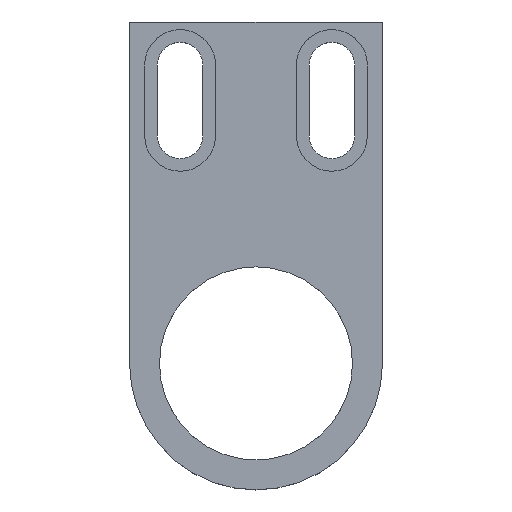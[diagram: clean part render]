
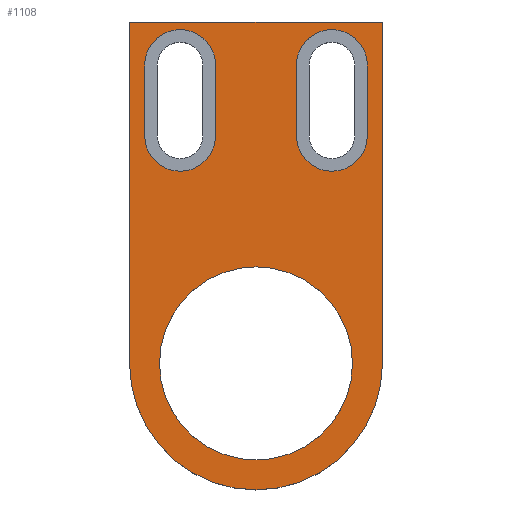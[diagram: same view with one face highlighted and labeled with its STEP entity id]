
A CAD part, top view. The second image highlights one B-rep face of the part: STEP entity #1108.
In plain terms, the highlighted planar face has unit normal (0, 0, 1).
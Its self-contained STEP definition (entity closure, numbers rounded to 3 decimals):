
#24 = EDGE_LOOP ( 'NONE', ( #25, #32 ) ) ;
#25 = ORIENTED_EDGE ( 'NONE', *, *, #59, .F. ) ;
#27 = EDGE_CURVE ( 'NONE', #30, #29, #258, .T. ) ;
#28 = EDGE_CURVE ( 'NONE', #29, #1113, #249, .T. ) ;
#29 = VERTEX_POINT ( 'NONE', #267 ) ;
#30 = VERTEX_POINT ( 'NONE', #250 ) ;
#31 = ORIENTED_EDGE ( 'NONE', *, *, #27, .F. ) ;
#32 = ORIENTED_EDGE ( 'NONE', *, *, #37, .F. ) ;
#33 = ORIENTED_EDGE ( 'NONE', *, *, #36, .F. ) ;
#34 = ORIENTED_EDGE ( 'NONE', *, *, #1070, .T. ) ;
#35 = EDGE_LOOP ( 'NONE', ( #34, #39, #43, #38 ) ) ;
#36 = EDGE_CURVE ( 'NONE', #1110, #30, #246, .T. ) ;
#37 = EDGE_CURVE ( 'NONE', #56, #58, #298, .T. ) ;
#38 = ORIENTED_EDGE ( 'NONE', *, *, #1114, .T. ) ;
#39 = ORIENTED_EDGE ( 'NONE', *, *, #1061, .T. ) ;
#43 = ORIENTED_EDGE ( 'NONE', *, *, #1055, .T. ) ;
#56 = VERTEX_POINT ( 'NONE', #322 ) ;
#58 = VERTEX_POINT ( 'NONE', #321 ) ;
#59 = EDGE_CURVE ( 'NONE', #58, #56, #326, .T. ) ;
#244 = DIRECTION ( 'NONE',  ( 0., -1., 0. ) ) ;
#245 = CARTESIAN_POINT ( 'NONE',  ( -22., 59., 6. ) ) ;
#246 = LINE ( 'NONE', #245, #301 ) ;
#248 = VECTOR ( 'NONE', #256, 1000. ) ;
#249 = LINE ( 'NONE', #254, #248 ) ;
#250 = CARTESIAN_POINT ( 'NONE',  ( -22., 45., 6. ) ) ;
#251 = DIRECTION ( 'NONE',  ( 1., 0., 0. ) ) ;
#252 = DIRECTION ( 'NONE',  ( 0., 0., 1. ) ) ;
#253 = CARTESIAN_POINT ( 'NONE',  ( -15., 45., 6. ) ) ;
#254 = CARTESIAN_POINT ( 'NONE',  ( -8., 59., 6. ) ) ;
#255 = CARTESIAN_POINT ( 'NONE',  ( 0., 0., 6. ) ) ;
#256 = DIRECTION ( 'NONE',  ( 0., 1., 0. ) ) ;
#258 = CIRCLE ( 'NONE', #263, 7. ) ;
#263 = AXIS2_PLACEMENT_3D ( 'NONE', #253, #252, #251 ) ;
#267 = CARTESIAN_POINT ( 'NONE',  ( -8., 45., 6. ) ) ;
#295 = DIRECTION ( 'NONE',  ( 1., 0., 0. ) ) ;
#296 = DIRECTION ( 'NONE',  ( 0., 0., 1. ) ) ;
#297 = AXIS2_PLACEMENT_3D ( 'NONE', #255, #296, #295 ) ;
#298 = CIRCLE ( 'NONE', #297, 19.079 ) ;
#301 = VECTOR ( 'NONE', #244, 1000. ) ;
#314 = DIRECTION ( 'NONE',  ( 1., 0., 0. ) ) ;
#315 = DIRECTION ( 'NONE',  ( 0., 0., 1. ) ) ;
#316 = CARTESIAN_POINT ( 'NONE',  ( 0., 0., 6. ) ) ;
#321 = CARTESIAN_POINT ( 'NONE',  ( -19.079, 0., 6. ) ) ;
#322 = CARTESIAN_POINT ( 'NONE',  ( 19.079, 0., 6. ) ) ;
#323 = AXIS2_PLACEMENT_3D ( 'NONE', #316, #315, #314 ) ;
#326 = CIRCLE ( 'NONE', #323, 19.079 ) ;
#512 = LINE ( 'NONE', #566, #565 ) ;
#547 = DIRECTION ( 'NONE',  ( 0., 1., 0. ) ) ;
#548 = VECTOR ( 'NONE', #547, 1000. ) ;
#549 = CARTESIAN_POINT ( 'NONE',  ( 25., 0., 6. ) ) ;
#550 = LINE ( 'NONE', #549, #548 ) ;
#551 = CIRCLE ( 'NONE', #601, 25. ) ;
#554 = CARTESIAN_POINT ( 'NONE',  ( -25., 67.5, 6. ) ) ;
#555 = CARTESIAN_POINT ( 'NONE',  ( 25., 0., 6. ) ) ;
#564 = DIRECTION ( 'NONE',  ( -1., 0., 0. ) ) ;
#565 = VECTOR ( 'NONE', #564, 1000. ) ;
#566 = CARTESIAN_POINT ( 'NONE',  ( 25., 67.5, 6. ) ) ;
#573 = CARTESIAN_POINT ( 'NONE',  ( 8., 59., 6. ) ) ;
#581 = CARTESIAN_POINT ( 'NONE',  ( 22., 59., 6. ) ) ;
#588 = CARTESIAN_POINT ( 'NONE',  ( 25., 67.5, 6. ) ) ;
#590 = DIRECTION ( 'NONE',  ( 1., 0., 0. ) ) ;
#591 = DIRECTION ( 'NONE',  ( 0., 0., 1. ) ) ;
#592 = CARTESIAN_POINT ( 'NONE',  ( 0., 0., 6. ) ) ;
#594 = CARTESIAN_POINT ( 'NONE',  ( -25., 0., 6. ) ) ;
#601 = AXIS2_PLACEMENT_3D ( 'NONE', #592, #591, #590 ) ;
#604 = CARTESIAN_POINT ( 'NONE',  ( 22., 45., 6. ) ) ;
#605 = AXIS2_PLACEMENT_3D ( 'NONE', #659, #664, #614 ) ;
#606 = DIRECTION ( 'NONE',  ( 1., 0., 0. ) ) ;
#607 = DIRECTION ( 'NONE',  ( 0., 0., 1. ) ) ;
#608 = LINE ( 'NONE', #662, #661 ) ;
#609 = CARTESIAN_POINT ( 'NONE',  ( 8., 45., 6. ) ) ;
#610 = FACE_OUTER_BOUND ( 'NONE', #35, .T. ) ;
#611 = CIRCLE ( 'NONE', #613, 7. ) ;
#612 = DIRECTION ( 'NONE',  ( 1., 0., 0. ) ) ;
#613 = AXIS2_PLACEMENT_3D ( 'NONE', #618, #607, #606 ) ;
#614 = DIRECTION ( 'NONE',  ( 1., 0., 0. ) ) ;
#615 = DIRECTION ( 'NONE',  ( 0., 1., 0. ) ) ;
#616 = VECTOR ( 'NONE', #615, 1000. ) ;
#617 = LINE ( 'NONE', #627, #616 ) ;
#618 = CARTESIAN_POINT ( 'NONE',  ( -15., 59., 6. ) ) ;
#619 = DIRECTION ( 'NONE',  ( 1., 0., 0. ) ) ;
#620 = DIRECTION ( 'NONE',  ( 0., 0., 1. ) ) ;
#621 = AXIS2_PLACEMENT_3D ( 'NONE', #634, #620, #619 ) ;
#622 = CIRCLE ( 'NONE', #621, 7. ) ;
#623 = CARTESIAN_POINT ( 'NONE',  ( 15., 59., 6. ) ) ;
#624 = DIRECTION ( 'NONE',  ( 0., 0., 1. ) ) ;
#627 = CARTESIAN_POINT ( 'NONE',  ( 22., 59., 6. ) ) ;
#628 = AXIS2_PLACEMENT_3D ( 'NONE', #623, #624, #612 ) ;
#629 = FACE_BOUND ( 'NONE', #1106, .T. ) ;
#630 = CIRCLE ( 'NONE', #628, 7. ) ;
#634 = CARTESIAN_POINT ( 'NONE',  ( 15., 45., 6. ) ) ;
#650 = DIRECTION ( 'NONE',  ( 0., -1., 0. ) ) ;
#651 = VECTOR ( 'NONE', #650, 1000. ) ;
#652 = CARTESIAN_POINT ( 'NONE',  ( -25., 0., 6. ) ) ;
#653 = LINE ( 'NONE', #652, #651 ) ;
#654 = CARTESIAN_POINT ( 'NONE',  ( -8., 59., 6. ) ) ;
#655 = CARTESIAN_POINT ( 'NONE',  ( -22., 59., 6. ) ) ;
#656 = PLANE ( 'NONE',  #605 ) ;
#659 = CARTESIAN_POINT ( 'NONE',  ( 0., 0., 6. ) ) ;
#660 = DIRECTION ( 'NONE',  ( 0., -1., 0. ) ) ;
#661 = VECTOR ( 'NONE', #660, 1000. ) ;
#662 = CARTESIAN_POINT ( 'NONE',  ( 8., 59., 6. ) ) ;
#663 = FACE_BOUND ( 'NONE', #24, .T. ) ;
#664 = DIRECTION ( 'NONE',  ( 0., 0., 1. ) ) ;
#665 = FACE_BOUND ( 'NONE', #1109, .T. ) ;
#1055 = EDGE_CURVE ( 'NONE', #1073, #1059, #512, .T. ) ;
#1059 = VERTEX_POINT ( 'NONE', #554 ) ;
#1061 = EDGE_CURVE ( 'NONE', #1080, #1073, #550, .T. ) ;
#1070 = EDGE_CURVE ( 'NONE', #1071, #1080, #551, .T. ) ;
#1071 = VERTEX_POINT ( 'NONE', #594 ) ;
#1073 = VERTEX_POINT ( 'NONE', #588 ) ;
#1080 = VERTEX_POINT ( 'NONE', #555 ) ;
#1093 = ORIENTED_EDGE ( 'NONE', *, *, #28, .F. ) ;
#1094 = VERTEX_POINT ( 'NONE', #573 ) ;
#1095 = ORIENTED_EDGE ( 'NONE', *, *, #1097, .F. ) ;
#1096 = ORIENTED_EDGE ( 'NONE', *, *, #1098, .F. ) ;
#1097 = EDGE_CURVE ( 'NONE', #1105, #1104, #622, .T. ) ;
#1098 = EDGE_CURVE ( 'NONE', #1104, #1100, #617, .T. ) ;
#1099 = EDGE_CURVE ( 'NONE', #1100, #1094, #630, .T. ) ;
#1100 = VERTEX_POINT ( 'NONE', #581 ) ;
#1101 = ORIENTED_EDGE ( 'NONE', *, *, #1102, .F. ) ;
#1102 = EDGE_CURVE ( 'NONE', #1113, #1110, #611, .T. ) ;
#1103 = ORIENTED_EDGE ( 'NONE', *, *, #1107, .F. ) ;
#1104 = VERTEX_POINT ( 'NONE', #604 ) ;
#1105 = VERTEX_POINT ( 'NONE', #609 ) ;
#1106 = EDGE_LOOP ( 'NONE', ( #1101, #1093, #31, #33 ) ) ;
#1107 = EDGE_CURVE ( 'NONE', #1094, #1105, #608, .T. ) ;
#1108 = ADVANCED_FACE ( 'NONE', ( #665, #629, #663, #610 ), #656, .T. ) ;
#1109 = EDGE_LOOP ( 'NONE', ( #1112, #1096, #1095, #1103 ) ) ;
#1110 = VERTEX_POINT ( 'NONE', #655 ) ;
#1112 = ORIENTED_EDGE ( 'NONE', *, *, #1099, .F. ) ;
#1113 = VERTEX_POINT ( 'NONE', #654 ) ;
#1114 = EDGE_CURVE ( 'NONE', #1059, #1071, #653, .T. ) ;
